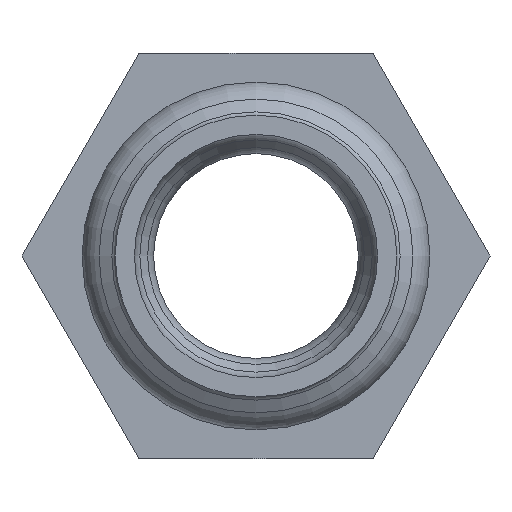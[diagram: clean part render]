
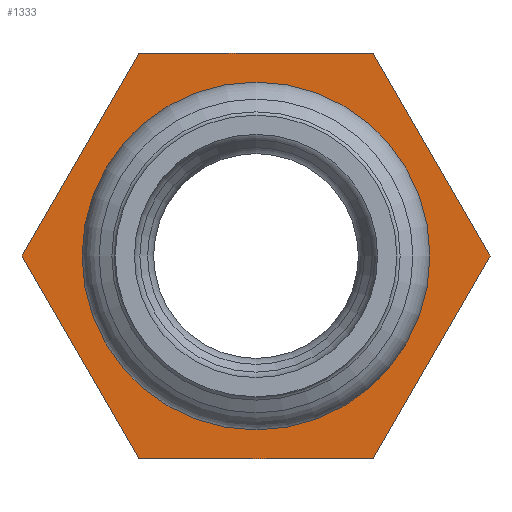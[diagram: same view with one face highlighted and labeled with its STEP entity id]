
A CAD part, left-side view. The second image highlights one B-rep face of the part: STEP entity #1333.
In plain terms, the highlighted planar face has unit normal (-1, 0, 0).
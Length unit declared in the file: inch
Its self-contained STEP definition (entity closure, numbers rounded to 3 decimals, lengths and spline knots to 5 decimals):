
#49=FACE_BOUND('',#206,.T.);
#55=PLANE('',#1568);
#144=FACE_OUTER_BOUND('',#205,.T.);
#205=EDGE_LOOP('',(#1174,#1175,#1176,#1177,#1178,#1179));
#206=EDGE_LOOP('',(#1180));
#240=LINE('',#2464,#283);
#241=LINE('',#2466,#284);
#242=LINE('',#2468,#285);
#243=LINE('',#2470,#286);
#244=LINE('',#2472,#287);
#245=LINE('',#2473,#288);
#283=VECTOR('',#2032,0.3937);
#284=VECTOR('',#2033,0.3937);
#285=VECTOR('',#2034,0.3937);
#286=VECTOR('',#2035,0.3937);
#287=VECTOR('',#2036,0.3937);
#288=VECTOR('',#2037,0.3937);
#456=CIRCLE('',#1563,0.64);
#594=VERTEX_POINT('',#2452);
#597=VERTEX_POINT('',#2462);
#598=VERTEX_POINT('',#2463);
#599=VERTEX_POINT('',#2465);
#600=VERTEX_POINT('',#2467);
#601=VERTEX_POINT('',#2469);
#602=VERTEX_POINT('',#2471);
#788=EDGE_CURVE('',#594,#594,#456,.T.);
#792=EDGE_CURVE('',#597,#598,#240,.T.);
#793=EDGE_CURVE('',#598,#599,#241,.T.);
#794=EDGE_CURVE('',#599,#600,#242,.T.);
#795=EDGE_CURVE('',#600,#601,#243,.T.);
#796=EDGE_CURVE('',#601,#602,#244,.T.);
#797=EDGE_CURVE('',#602,#597,#245,.T.);
#1174=ORIENTED_EDGE('',*,*,#792,.T.);
#1175=ORIENTED_EDGE('',*,*,#793,.T.);
#1176=ORIENTED_EDGE('',*,*,#794,.T.);
#1177=ORIENTED_EDGE('',*,*,#795,.T.);
#1178=ORIENTED_EDGE('',*,*,#796,.T.);
#1179=ORIENTED_EDGE('',*,*,#797,.T.);
#1180=ORIENTED_EDGE('',*,*,#788,.T.);
#1333=ADVANCED_FACE('',(#144,#49),#55,.F.);
#1563=AXIS2_PLACEMENT_3D('',#2453,#2019,#2020);
#1568=AXIS2_PLACEMENT_3D('',#2461,#2030,#2031);
#2019=DIRECTION('center_axis',(1.,0.,0.));
#2020=DIRECTION('ref_axis',(0.,1.,0.));
#2030=DIRECTION('center_axis',(1.,0.,0.));
#2031=DIRECTION('ref_axis',(0.,0.,-1.));
#2032=DIRECTION('',(0.,-0.5,-0.866));
#2033=DIRECTION('',(0.,-1.,0.));
#2034=DIRECTION('',(0.,-0.5,0.866));
#2035=DIRECTION('',(0.,0.5,0.866));
#2036=DIRECTION('',(0.,1.,0.));
#2037=DIRECTION('',(0.,0.5,-0.866));
#2452=CARTESIAN_POINT('',(-0.405,-0.64,0.));
#2453=CARTESIAN_POINT('Origin',(-0.405,0.,0.));
#2461=CARTESIAN_POINT('Origin',(-0.405,0.,0.));
#2462=CARTESIAN_POINT('',(-0.405,1.01036,0.));
#2463=CARTESIAN_POINT('',(-0.405,0.50518,-0.875));
#2464=CARTESIAN_POINT('',(-0.405,1.01036,0.));
#2465=CARTESIAN_POINT('',(-0.405,-0.50518,-0.875));
#2466=CARTESIAN_POINT('',(-0.405,0.50518,-0.875));
#2467=CARTESIAN_POINT('',(-0.405,-1.01036,0.));
#2468=CARTESIAN_POINT('',(-0.405,-0.50518,-0.875));
#2469=CARTESIAN_POINT('',(-0.405,-0.50518,0.875));
#2470=CARTESIAN_POINT('',(-0.405,-1.01036,0.));
#2471=CARTESIAN_POINT('',(-0.405,0.50518,0.875));
#2472=CARTESIAN_POINT('',(-0.405,-0.50518,0.875));
#2473=CARTESIAN_POINT('',(-0.405,0.50518,0.875));
